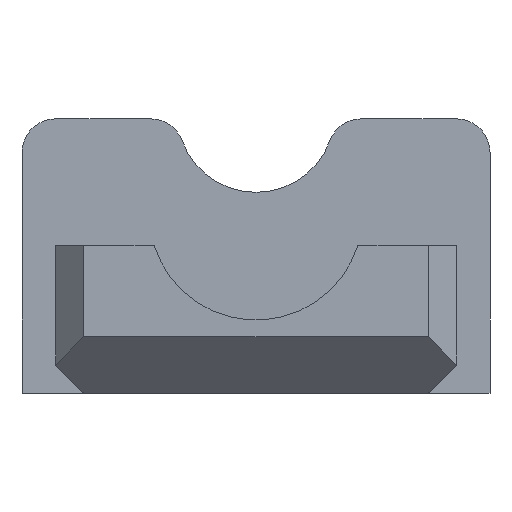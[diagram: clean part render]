
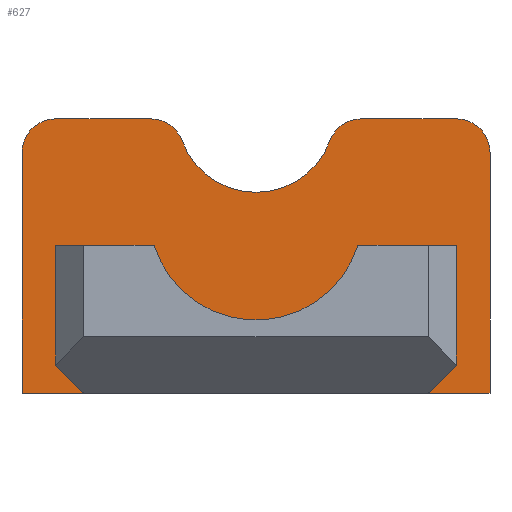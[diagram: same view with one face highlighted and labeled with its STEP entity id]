
A CAD part, left-side view. The second image highlights one B-rep face of the part: STEP entity #627.
In plain terms, the highlighted planar face has unit normal (-1, 0, 0).
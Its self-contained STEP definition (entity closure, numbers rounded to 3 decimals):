
#15=FACE_BOUND('',#101,.T.);
#21=CIRCLE('',#673,3.);
#22=CIRCLE('',#676,3.);
#23=CIRCLE('',#681,3.);
#24=CIRCLE('',#683,7.);
#25=CIRCLE('',#685,3.);
#26=CIRCLE('',#690,9.5);
#66=FACE_OUTER_BOUND('',#100,.T.);
#100=EDGE_LOOP('',(#515,#516,#517,#518,#519,#520,#521,#522,#523,#524));
#101=EDGE_LOOP('',(#525,#526,#527,#528,#529,#530));
#141=LINE('',#983,#212);
#145=LINE('',#993,#216);
#148=LINE('',#998,#219);
#149=LINE('',#1000,#220);
#153=LINE('',#1016,#224);
#158=LINE('',#1026,#229);
#160=LINE('',#1030,#231);
#163=LINE('',#1035,#234);
#164=LINE('',#1037,#235);
#165=LINE('',#1040,#236);
#212=VECTOR('',#779,10.);
#216=VECTOR('',#789,10.);
#219=VECTOR('',#794,10.);
#220=VECTOR('',#797,10.);
#224=VECTOR('',#815,10.);
#229=VECTOR('',#822,10.);
#231=VECTOR('',#826,10.);
#234=VECTOR('',#831,10.);
#235=VECTOR('',#832,10.);
#236=VECTOR('',#835,10.);
#282=VERTEX_POINT('',#976);
#283=VERTEX_POINT('',#977);
#284=VERTEX_POINT('',#982);
#285=VERTEX_POINT('',#986);
#286=VERTEX_POINT('',#988);
#287=VERTEX_POINT('',#992);
#288=VERTEX_POINT('',#996);
#289=VERTEX_POINT('',#1002);
#290=VERTEX_POINT('',#1006);
#291=VERTEX_POINT('',#1010);
#292=VERTEX_POINT('',#1014);
#293=VERTEX_POINT('',#1015);
#297=VERTEX_POINT('',#1025);
#298=VERTEX_POINT('',#1029);
#300=VERTEX_POINT('',#1036);
#301=VERTEX_POINT('',#1038);
#350=EDGE_CURVE('',#282,#283,#21,.T.);
#353=EDGE_CURVE('',#284,#283,#141,.T.);
#356=EDGE_CURVE('',#285,#286,#22,.T.);
#358=EDGE_CURVE('',#287,#286,#145,.T.);
#361=EDGE_CURVE('',#282,#288,#148,.T.);
#362=EDGE_CURVE('',#287,#288,#149,.F.);
#363=EDGE_CURVE('',#284,#289,#23,.T.);
#365=EDGE_CURVE('',#290,#289,#24,.T.);
#367=EDGE_CURVE('',#290,#291,#25,.T.);
#369=EDGE_CURVE('',#292,#293,#153,.T.);
#374=EDGE_CURVE('',#297,#292,#158,.T.);
#376=EDGE_CURVE('',#298,#297,#160,.T.);
#379=EDGE_CURVE('',#285,#291,#163,.T.);
#380=EDGE_CURVE('',#293,#300,#164,.T.);
#381=EDGE_CURVE('',#300,#301,#26,.T.);
#382=EDGE_CURVE('',#301,#298,#165,.T.);
#515=ORIENTED_EDGE('',*,*,#362,.F.);
#516=ORIENTED_EDGE('',*,*,#358,.T.);
#517=ORIENTED_EDGE('',*,*,#356,.F.);
#518=ORIENTED_EDGE('',*,*,#379,.T.);
#519=ORIENTED_EDGE('',*,*,#367,.F.);
#520=ORIENTED_EDGE('',*,*,#365,.T.);
#521=ORIENTED_EDGE('',*,*,#363,.F.);
#522=ORIENTED_EDGE('',*,*,#353,.T.);
#523=ORIENTED_EDGE('',*,*,#350,.F.);
#524=ORIENTED_EDGE('',*,*,#361,.T.);
#525=ORIENTED_EDGE('',*,*,#374,.T.);
#526=ORIENTED_EDGE('',*,*,#369,.T.);
#527=ORIENTED_EDGE('',*,*,#380,.T.);
#528=ORIENTED_EDGE('',*,*,#381,.T.);
#529=ORIENTED_EDGE('',*,*,#382,.T.);
#530=ORIENTED_EDGE('',*,*,#376,.T.);
#594=PLANE('',#689);
#627=ADVANCED_FACE('',(#66,#15),#594,.F.);
#673=AXIS2_PLACEMENT_3D('',#978,#773,#774);
#676=AXIS2_PLACEMENT_3D('',#989,#784,#785);
#681=AXIS2_PLACEMENT_3D('',#1003,#800,#801);
#683=AXIS2_PLACEMENT_3D('',#1007,#805,#806);
#685=AXIS2_PLACEMENT_3D('',#1011,#810,#811);
#689=AXIS2_PLACEMENT_3D('',#1034,#829,#830);
#690=AXIS2_PLACEMENT_3D('',#1039,#833,#834);
#773=DIRECTION('center_axis',(1.,0.,0.));
#774=DIRECTION('ref_axis',(0.,0.707,0.707));
#779=DIRECTION('',(0.,1.,0.));
#784=DIRECTION('center_axis',(1.,0.,0.));
#785=DIRECTION('ref_axis',(0.,-0.707,0.707));
#789=DIRECTION('',(0.,0.,1.));
#794=DIRECTION('',(0.,0.,-1.));
#797=DIRECTION('',(0.,-1.,0.));
#800=DIRECTION('center_axis',(1.,0.,0.));
#801=DIRECTION('ref_axis',(0.,-0.572,0.82));
#805=DIRECTION('center_axis',(1.,0.,0.));
#806=DIRECTION('ref_axis',(0.,1.,0.));
#810=DIRECTION('center_axis',(1.,0.,0.));
#811=DIRECTION('ref_axis',(0.,0.572,0.82));
#815=DIRECTION('',(0.,0.,1.));
#822=DIRECTION('',(0.,1.,0.));
#826=DIRECTION('',(0.,0.,-1.));
#829=DIRECTION('center_axis',(1.,0.,0.));
#830=DIRECTION('ref_axis',(0.,1.,0.));
#831=DIRECTION('',(0.,1.,0.));
#832=DIRECTION('',(0.,-1.,0.));
#833=DIRECTION('center_axis',(-1.,0.,0.));
#834=DIRECTION('ref_axis',(0.,1.,0.));
#835=DIRECTION('',(0.,-1.,0.));
#976=CARTESIAN_POINT('',(96.15,20.8,-180.76));
#977=CARTESIAN_POINT('',(96.15,17.8,-177.76));
#978=CARTESIAN_POINT('Origin',(96.15,17.8,-180.76));
#982=CARTESIAN_POINT('',(96.15,9.382,-177.76));
#983=CARTESIAN_POINT('',(96.15,-20.8,-177.76));
#986=CARTESIAN_POINT('',(96.15,-17.8,-177.76));
#988=CARTESIAN_POINT('',(96.15,-20.8,-180.76));
#989=CARTESIAN_POINT('Origin',(96.15,-17.8,-180.76));
#992=CARTESIAN_POINT('',(96.15,-20.8,-202.15));
#993=CARTESIAN_POINT('',(96.15,-20.8,-183.851));
#996=CARTESIAN_POINT('',(96.15,20.8,-202.15));
#998=CARTESIAN_POINT('',(96.15,20.8,-196.033));
#1000=CARTESIAN_POINT('',(96.15,-10.4,-202.15));
#1002=CARTESIAN_POINT('',(96.15,6.567,-179.722));
#1003=CARTESIAN_POINT('Origin',(96.15,9.382,-180.76));
#1006=CARTESIAN_POINT('',(96.15,-6.567,-179.722));
#1007=CARTESIAN_POINT('Origin',(96.15,0.,-177.298));
#1010=CARTESIAN_POINT('',(96.15,-9.382,-177.76));
#1011=CARTESIAN_POINT('Origin',(96.15,-9.382,-180.76));
#1014=CARTESIAN_POINT('',(96.15,15.3,-202.15));
#1015=CARTESIAN_POINT('',(96.15,15.3,-189.));
#1016=CARTESIAN_POINT('',(96.15,15.3,-196.046));
#1025=CARTESIAN_POINT('',(96.15,-15.3,-202.15));
#1026=CARTESIAN_POINT('',(96.15,0.,-202.15));
#1029=CARTESIAN_POINT('',(96.15,-15.3,-189.));
#1030=CARTESIAN_POINT('',(96.15,-15.3,-189.471));
#1034=CARTESIAN_POINT('Origin',(96.15,-15.3,-190.));
#1035=CARTESIAN_POINT('',(96.15,-20.8,-177.76));
#1036=CARTESIAN_POINT('',(96.15,9.062,-189.));
#1037=CARTESIAN_POINT('',(96.15,0.,-189.));
#1038=CARTESIAN_POINT('',(96.15,-9.062,-189.));
#1039=CARTESIAN_POINT('Origin',(96.15,0.,-186.15));
#1040=CARTESIAN_POINT('',(96.15,0.,-189.));
